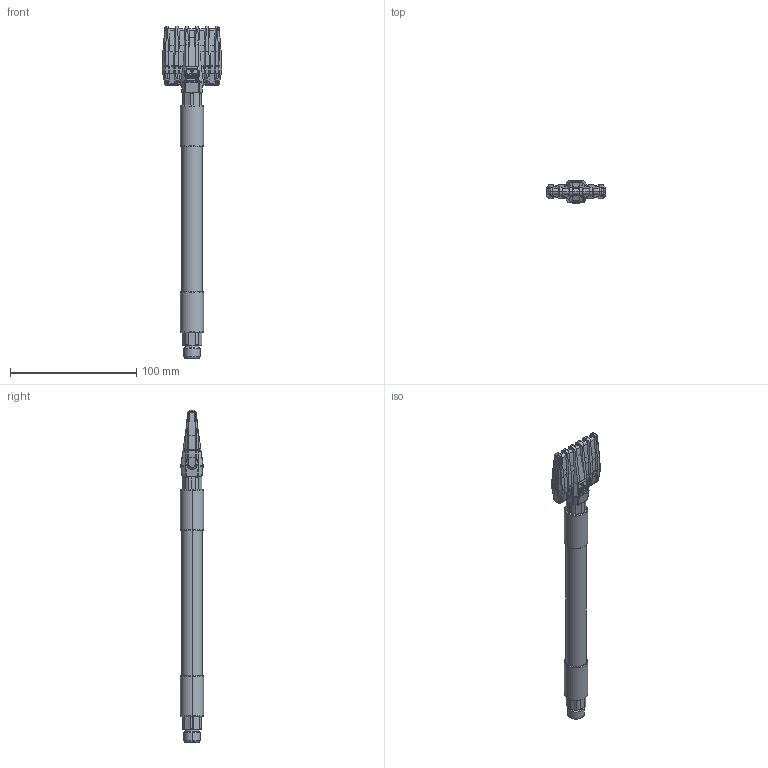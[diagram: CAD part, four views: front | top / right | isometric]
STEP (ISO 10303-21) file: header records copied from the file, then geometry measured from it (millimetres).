
FILE_DESCRIPTION (( 'STEP AP203' ), '1' );
FILE_NAME ('9002W-S+-200.STEP', '2020-07-16T14:56:30', ( '' ), ( '' ), 'SwSTEP 2.0', 'SolidWorks 2017', '' );
FILE_SCHEMA (( 'CONFIG_CONTROL_DESIGN' ));
Length unit declared in the file: millimetre
Products named in the file (3): FB14-200_D‚faut; 9002W-S+; 9002W-S+-200
Assembly tree (2 placements, depth 2):
  9002W-S+-200
    FB14-200_D‚faut
    9002W-S+
Bounding box: 47.21 x 18.5 x 263.14 mm (x, y, z)
Volume: 22570.3 mm3; surface area: 26505.7 mm2
Topology: 2 solids, 4 shells, 1269 faces, 3476 edges, 2168 vertices
Faces by surface type: bspline 477, plane 432, cylinder 323, cone 19, torus 14, sphere 4
Entity records: 49062 total; most frequent: CARTESIAN_POINT 21632, ORIENTED_EDGE 6498, DIRECTION 4133, EDGE_CURVE 3456, VERTEX_POINT 2168, VECTOR 1641, LINE 1641, EDGE_LOOP 1318
